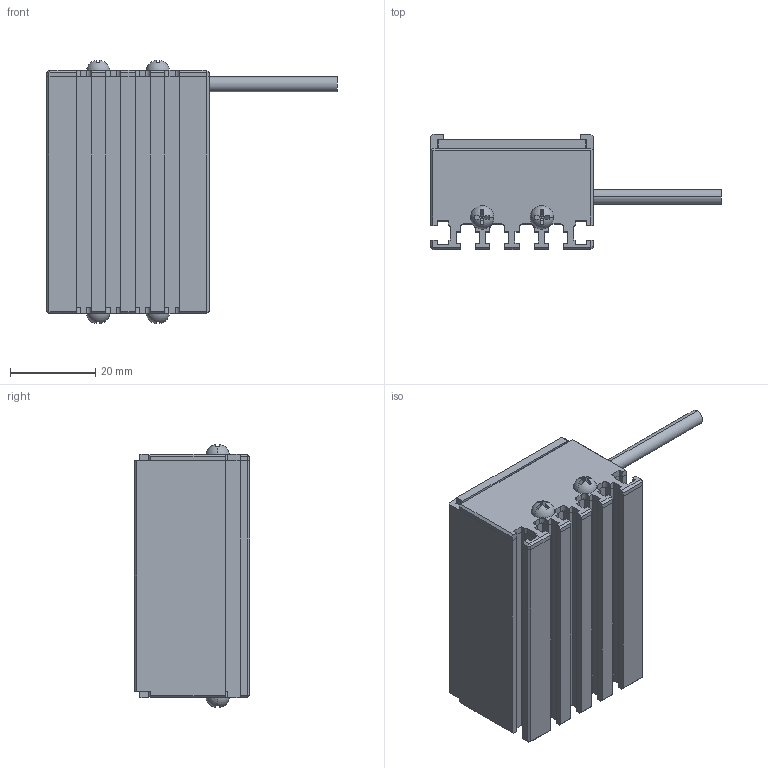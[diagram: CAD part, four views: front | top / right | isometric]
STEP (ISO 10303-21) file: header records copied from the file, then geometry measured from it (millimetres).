
FILE_DESCRIPTION((''),'2;1');
FILE_NAME('MV-LLDS-57-38_ASM','2020-12-29T',('Administrator'),(''),'PRO/ENGINEER BY PARAMETRIC TECHNOLOGY CORPORATION, 2010100','PRO/ENGINEER BY PARAMETRIC TECHNOLOGY CORPORATION, 2010100','');
FILE_SCHEMA(('CONFIG_CONTROL_DESIGN'));
Length unit declared in the file: millimetre
Products named in the file (3): BL-6_5; M3-5_3; MV-LLDS-57-38_ASM
Assembly tree (5 placements, depth 2):
  MV-LLDS-57-38_ASM
    BL-6_5
    M3-5_3  x4
Bounding box: 68 x 27 x 61.68 mm (x, y, z)
Volume: 46847 mm3; surface area: 18477.1 mm2
Topology: 5 solids, 14 shells, 425 faces, 1173 edges, 766 vertices
Faces by surface type: plane 293, cylinder 84, cone 16, bspline 16, torus 8, sphere 8
Entity records: 10863 total; most frequent: CARTESIAN_POINT 2204, ORIENTED_EDGE 1816, DIRECTION 1721, EDGE_CURVE 918, VECTOR 733, LINE 733, VERTEX_POINT 607, AXIS2_PLACEMENT_3D 494
